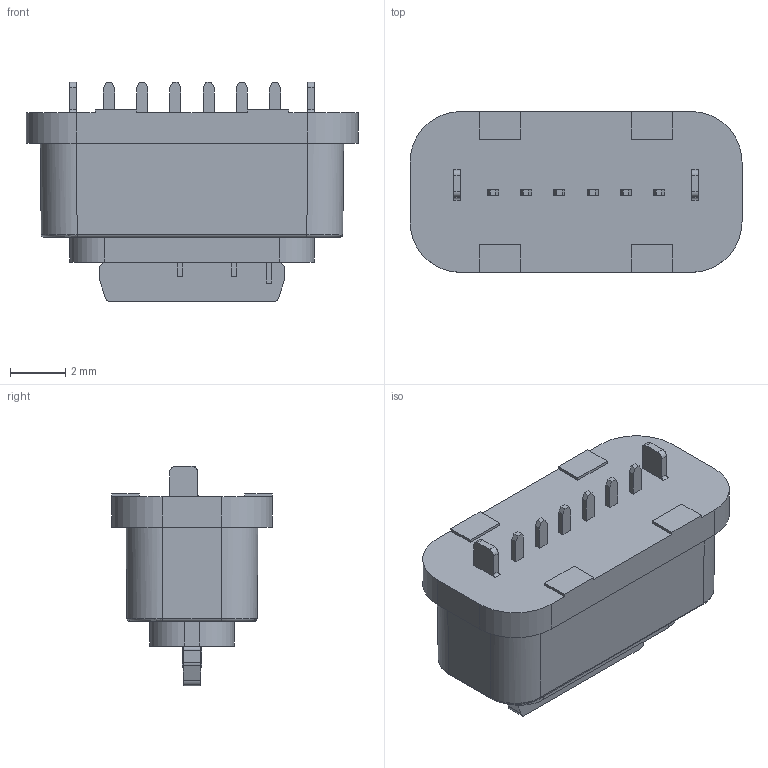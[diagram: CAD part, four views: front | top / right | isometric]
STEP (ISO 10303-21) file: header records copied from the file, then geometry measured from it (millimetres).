
FILE_DESCRIPTION((''),'2;1');
FILE_NAME('5_0-5_5','2023-07-13T10:37:14',('Administrator'),(''),'CREO PARAMETRIC BY PTC INC, 2019080','CREO PARAMETRIC BY PTC INC, 2019080','');
FILE_SCHEMA(('CONFIG_CONTROL_DESIGN'));
Length unit declared in the file: millimetre
Products named in the file (1): 5_0-5_5
Bounding box: 12 x 5.81 x 7.93 mm (x, y, z)
Volume: 230.3 mm3; surface area: 435.9 mm2
Topology: 1 solids, 4 shells, 246 faces, 626 edges, 400 vertices
Faces by surface type: plane 172, cylinder 58, torus 8, cone 8
Entity records: 7454 total; most frequent: CARTESIAN_POINT 1414, ORIENTED_EDGE 1252, DIRECTION 1222, EDGE_CURVE 626, VECTOR 486, LINE 486, VERTEX_POINT 400, AXIS2_PLACEMENT_3D 368
